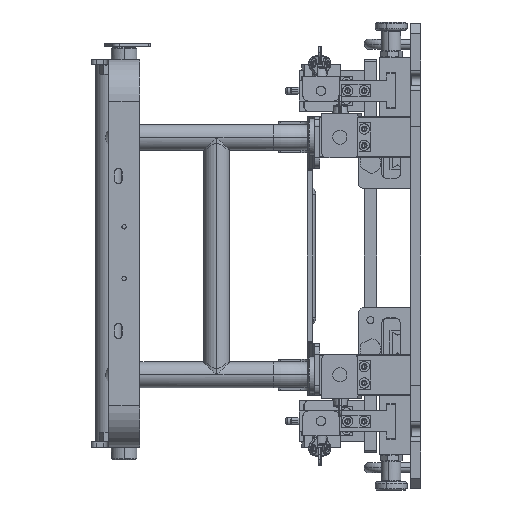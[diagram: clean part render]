
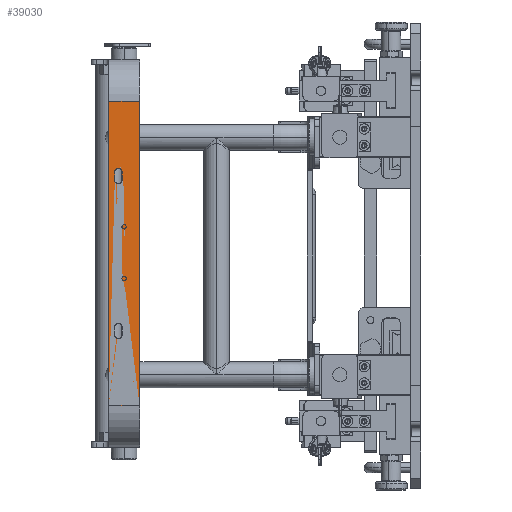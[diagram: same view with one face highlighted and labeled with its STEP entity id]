
A CAD part, left-side view. The second image highlights one B-rep face of the part: STEP entity #39030.
In plain terms, the highlighted planar face has unit normal (-1, 0, 0).
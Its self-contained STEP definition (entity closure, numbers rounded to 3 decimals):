
#37834=CARTESIAN_POINT('Vertex',(-617.475,474.625,208.053)) ;
#37837=CARTESIAN_POINT('Line Origine',(-617.434,622.125,208.053)) ;
#37841=CARTESIAN_POINT('Vertex',(-617.393,769.625,208.053)) ;
#37906=CARTESIAN_POINT('Vertex',(-617.393,769.625,238.053)) ;
#37909=CARTESIAN_POINT('Line Origine',(-617.434,622.125,238.053)) ;
#37913=CARTESIAN_POINT('Vertex',(-617.475,474.625,238.053)) ;
#38137=CARTESIAN_POINT('Line Origine',(-617.475,474.625,223.053)) ;
#38892=CARTESIAN_POINT('Axis2P3D Location',(-617.475,474.625,208.053)) ;
#38897=CARTESIAN_POINT('Line Origine',(-617.393,769.625,223.053)) ;
#38908=CARTESIAN_POINT('Axis2P3D Location',(-617.414,693.125,228.553)) ;
#38912=CARTESIAN_POINT('Vertex',(-617.414,693.125,232.053)) ;
#38914=CARTESIAN_POINT('Vertex',(-617.414,693.125,225.053)) ;
#38917=CARTESIAN_POINT('Line Origine',(-617.413,697.125,225.053)) ;
#38921=CARTESIAN_POINT('Vertex',(-617.412,701.125,225.053)) ;
#38925=CARTESIAN_POINT('Control Point',(-617.412,701.125,232.053)) ;
#38926=CARTESIAN_POINT('Control Point',(-617.412,701.492,232.053)) ;
#38927=CARTESIAN_POINT('Control Point',(-617.412,701.859,232.005)) ;
#38928=CARTESIAN_POINT('Control Point',(-617.412,702.217,231.909)) ;
#38929=CARTESIAN_POINT('Control Point',(-617.412,702.9,231.625)) ;
#38930=CARTESIAN_POINT('Control Point',(-617.411,703.487,231.176)) ;
#38931=CARTESIAN_POINT('Control Point',(-617.411,703.749,230.913)) ;
#38932=CARTESIAN_POINT('Control Point',(-617.411,704.198,230.326)) ;
#38933=CARTESIAN_POINT('Control Point',(-617.411,704.482,229.643)) ;
#38934=CARTESIAN_POINT('Control Point',(-617.411,704.578,229.285)) ;
#38935=CARTESIAN_POINT('Control Point',(-617.411,704.673,228.552)) ;
#38936=CARTESIAN_POINT('Control Point',(-617.411,704.577,227.819)) ;
#38937=CARTESIAN_POINT('Control Point',(-617.411,704.481,227.46)) ;
#38938=CARTESIAN_POINT('Control Point',(-617.411,704.197,226.778)) ;
#38939=CARTESIAN_POINT('Control Point',(-617.411,703.747,226.191)) ;
#38940=CARTESIAN_POINT('Control Point',(-617.411,703.485,225.929)) ;
#38941=CARTESIAN_POINT('Control Point',(-617.412,702.898,225.48)) ;
#38942=CARTESIAN_POINT('Control Point',(-617.412,702.215,225.197)) ;
#38943=CARTESIAN_POINT('Control Point',(-617.412,701.858,225.101)) ;
#38944=CARTESIAN_POINT('Control Point',(-617.412,701.491,225.053)) ;
#38945=CARTESIAN_POINT('Control Point',(-617.412,701.125,225.053)) ;
#38946=CARTESIAN_POINT('Vertex',(-617.412,701.125,232.053)) ;
#38949=CARTESIAN_POINT('Line Origine',(-617.413,697.125,232.053)) ;
#38961=CARTESIAN_POINT('Control Point',(-617.456,543.125,225.053)) ;
#38962=CARTESIAN_POINT('Control Point',(-617.456,542.759,225.053)) ;
#38963=CARTESIAN_POINT('Control Point',(-617.456,542.392,225.101)) ;
#38964=CARTESIAN_POINT('Control Point',(-617.457,542.034,225.197)) ;
#38965=CARTESIAN_POINT('Control Point',(-617.457,541.351,225.481)) ;
#38966=CARTESIAN_POINT('Control Point',(-617.457,540.764,225.93)) ;
#38967=CARTESIAN_POINT('Control Point',(-617.457,540.502,226.193)) ;
#38968=CARTESIAN_POINT('Control Point',(-617.457,540.052,226.78)) ;
#38969=CARTESIAN_POINT('Control Point',(-617.457,539.769,227.463)) ;
#38970=CARTESIAN_POINT('Control Point',(-617.457,539.673,227.821)) ;
#38971=CARTESIAN_POINT('Control Point',(-617.457,539.577,228.554)) ;
#38972=CARTESIAN_POINT('Control Point',(-617.457,539.674,229.287)) ;
#38973=CARTESIAN_POINT('Control Point',(-617.457,539.77,229.646)) ;
#38974=CARTESIAN_POINT('Control Point',(-617.457,540.054,230.328)) ;
#38975=CARTESIAN_POINT('Control Point',(-617.457,540.504,230.915)) ;
#38976=CARTESIAN_POINT('Control Point',(-617.457,540.766,231.177)) ;
#38977=CARTESIAN_POINT('Control Point',(-617.457,541.353,231.626)) ;
#38978=CARTESIAN_POINT('Control Point',(-617.457,542.035,231.909)) ;
#38979=CARTESIAN_POINT('Control Point',(-617.456,542.393,232.005)) ;
#38980=CARTESIAN_POINT('Control Point',(-617.456,542.759,232.053)) ;
#38981=CARTESIAN_POINT('Control Point',(-617.456,543.125,232.053)) ;
#38982=CARTESIAN_POINT('Vertex',(-617.456,543.125,232.053)) ;
#38984=CARTESIAN_POINT('Vertex',(-617.456,543.125,225.053)) ;
#38987=CARTESIAN_POINT('Line Origine',(-617.455,547.125,225.053)) ;
#38991=CARTESIAN_POINT('Vertex',(-617.454,551.125,225.053)) ;
#38995=CARTESIAN_POINT('Control Point',(-617.454,551.125,232.053)) ;
#38996=CARTESIAN_POINT('Control Point',(-617.454,551.492,232.053)) ;
#38997=CARTESIAN_POINT('Control Point',(-617.454,551.859,232.005)) ;
#38998=CARTESIAN_POINT('Control Point',(-617.454,552.217,231.909)) ;
#38999=CARTESIAN_POINT('Control Point',(-617.453,552.9,231.625)) ;
#39000=CARTESIAN_POINT('Control Point',(-617.453,553.487,231.176)) ;
#39001=CARTESIAN_POINT('Control Point',(-617.453,553.749,230.913)) ;
#39002=CARTESIAN_POINT('Control Point',(-617.453,554.198,230.326)) ;
#39003=CARTESIAN_POINT('Control Point',(-617.453,554.482,229.643)) ;
#39004=CARTESIAN_POINT('Control Point',(-617.453,554.578,229.285)) ;
#39005=CARTESIAN_POINT('Control Point',(-617.453,554.673,228.552)) ;
#39006=CARTESIAN_POINT('Control Point',(-617.453,554.577,227.819)) ;
#39007=CARTESIAN_POINT('Control Point',(-617.453,554.481,227.46)) ;
#39008=CARTESIAN_POINT('Control Point',(-617.453,554.197,226.778)) ;
#39009=CARTESIAN_POINT('Control Point',(-617.453,553.747,226.191)) ;
#39010=CARTESIAN_POINT('Control Point',(-617.453,553.485,225.929)) ;
#39011=CARTESIAN_POINT('Control Point',(-617.453,552.898,225.48)) ;
#39012=CARTESIAN_POINT('Control Point',(-617.454,552.215,225.197)) ;
#39013=CARTESIAN_POINT('Control Point',(-617.454,551.858,225.101)) ;
#39014=CARTESIAN_POINT('Control Point',(-617.454,551.491,225.053)) ;
#39015=CARTESIAN_POINT('Control Point',(-617.454,551.125,225.053)) ;
#39016=CARTESIAN_POINT('Vertex',(-617.454,551.125,232.053)) ;
#39019=CARTESIAN_POINT('Line Origine',(-617.455,547.125,232.053)) ;
#37838=DIRECTION('Vector Direction',(0.,1.,0.)) ;
#37910=DIRECTION('Vector Direction',(0.,1.,0.)) ;
#38138=DIRECTION('Vector Direction',(0.,0.,1.)) ;
#38893=DIRECTION('Axis2P3D Direction',(1.,0.,0.)) ;
#38894=DIRECTION('Axis2P3D XDirection',(0.,1.,0.)) ;
#38898=DIRECTION('Vector Direction',(0.,0.,1.)) ;
#38909=DIRECTION('Axis2P3D Direction',(1.,0.,0.)) ;
#38918=DIRECTION('Vector Direction',(0.,1.,0.)) ;
#38950=DIRECTION('Vector Direction',(0.,-1.,0.)) ;
#38988=DIRECTION('Vector Direction',(0.,1.,0.)) ;
#39020=DIRECTION('Vector Direction',(0.,-1.,0.)) ;
#38895=AXIS2_PLACEMENT_3D('Plane Axis2P3D',#38892,#38893,#38894) ;
#38910=AXIS2_PLACEMENT_3D('Circle Axis2P3D',#38908,#38909,$) ;
#38903=ORIENTED_EDGE('',*,*,#37843,.F.) ;
#38904=ORIENTED_EDGE('',*,*,#38141,.F.) ;
#38905=ORIENTED_EDGE('',*,*,#37915,.F.) ;
#38906=ORIENTED_EDGE('',*,*,#38901,.T.) ;
#38955=ORIENTED_EDGE('',*,*,#38916,.T.) ;
#38956=ORIENTED_EDGE('',*,*,#38923,.T.) ;
#38957=ORIENTED_EDGE('',*,*,#38948,.T.) ;
#38958=ORIENTED_EDGE('',*,*,#38953,.T.) ;
#39025=ORIENTED_EDGE('',*,*,#38986,.T.) ;
#39026=ORIENTED_EDGE('',*,*,#38993,.T.) ;
#39027=ORIENTED_EDGE('',*,*,#39018,.T.) ;
#39028=ORIENTED_EDGE('',*,*,#39023,.T.) ;
#38959=FACE_BOUND('',#38954,.T.) ;
#39029=FACE_BOUND('',#39024,.T.) ;
#37839=VECTOR('Line Direction',#37838,1.) ;
#37911=VECTOR('Line Direction',#37910,1.) ;
#38139=VECTOR('Line Direction',#38138,1.) ;
#38899=VECTOR('Line Direction',#38898,1.) ;
#38919=VECTOR('Line Direction',#38918,1.) ;
#38951=VECTOR('Line Direction',#38950,1.) ;
#38989=VECTOR('Line Direction',#38988,1.) ;
#39021=VECTOR('Line Direction',#39020,1.) ;
#39030=ADVANCED_FACE('di zuo zhi jia.1\\\X2\4E0A8FB96846\X0\\\\X2\51E04F554F53\X0\.4.1',(#38907,#38959,#39029),#38896,.F.) ;
#38924=B_SPLINE_CURVE_WITH_KNOTS('',5,(#38925,#38926,#38927,#38928,#38929,#38930,#38931,#38932,#38933,#38934,#38935,#38936,#38937,#38938,#38939,#38940,#38941,#38942,#38943,#38944,#38945),.UNSPECIFIED.,.F.,.U.,(6,3,3,3,3,3,6),(0.,2.6,5.199,7.799,10.398,12.998,15.594),.UNSPECIFIED.) ;
#38960=B_SPLINE_CURVE_WITH_KNOTS('',5,(#38961,#38962,#38963,#38964,#38965,#38966,#38967,#38968,#38969,#38970,#38971,#38972,#38973,#38974,#38975,#38976,#38977,#38978,#38979,#38980,#38981),.UNSPECIFIED.,.F.,.U.,(6,3,3,3,3,3,6),(0.,2.6,5.199,7.799,10.398,12.998,15.594),.UNSPECIFIED.) ;
#38994=B_SPLINE_CURVE_WITH_KNOTS('',5,(#38995,#38996,#38997,#38998,#38999,#39000,#39001,#39002,#39003,#39004,#39005,#39006,#39007,#39008,#39009,#39010,#39011,#39012,#39013,#39014,#39015),.UNSPECIFIED.,.F.,.U.,(6,3,3,3,3,3,6),(0.,2.6,5.199,7.799,10.398,12.998,15.594),.UNSPECIFIED.) ;
#38911=CIRCLE('generated circle',#38910,3.5) ;
#37843=EDGE_CURVE('',#37835,#37842,#37840,.T.) ;
#37915=EDGE_CURVE('',#37907,#37914,#37912,.F.) ;
#38141=EDGE_CURVE('',#37914,#37835,#38140,.F.) ;
#38901=EDGE_CURVE('',#37907,#37842,#38900,.F.) ;
#38916=EDGE_CURVE('',#38913,#38915,#38911,.T.) ;
#38923=EDGE_CURVE('',#38915,#38922,#38920,.T.) ;
#38948=EDGE_CURVE('',#38922,#38947,#38924,.F.) ;
#38953=EDGE_CURVE('',#38947,#38913,#38952,.T.) ;
#38986=EDGE_CURVE('',#38983,#38985,#38960,.F.) ;
#38993=EDGE_CURVE('',#38985,#38992,#38990,.T.) ;
#39018=EDGE_CURVE('',#38992,#39017,#38994,.F.) ;
#39023=EDGE_CURVE('',#39017,#38983,#39022,.T.) ;
#38902=EDGE_LOOP('',(#38903,#38904,#38905,#38906)) ;
#38954=EDGE_LOOP('',(#38955,#38956,#38957,#38958)) ;
#39024=EDGE_LOOP('',(#39025,#39026,#39027,#39028)) ;
#38907=FACE_OUTER_BOUND('',#38902,.T.) ;
#37840=LINE('Line',#37837,#37839) ;
#37912=LINE('Line',#37909,#37911) ;
#38140=LINE('Line',#38137,#38139) ;
#38900=LINE('Line',#38897,#38899) ;
#38920=LINE('Line',#38917,#38919) ;
#38952=LINE('Line',#38949,#38951) ;
#38990=LINE('Line',#38987,#38989) ;
#39022=LINE('Line',#39019,#39021) ;
#38896=PLANE('Plane',#38895) ;
#37835=VERTEX_POINT('',#37834) ;
#37842=VERTEX_POINT('',#37841) ;
#37907=VERTEX_POINT('',#37906) ;
#37914=VERTEX_POINT('',#37913) ;
#38913=VERTEX_POINT('',#38912) ;
#38915=VERTEX_POINT('',#38914) ;
#38922=VERTEX_POINT('',#38921) ;
#38947=VERTEX_POINT('',#38946) ;
#38983=VERTEX_POINT('',#38982) ;
#38985=VERTEX_POINT('',#38984) ;
#38992=VERTEX_POINT('',#38991) ;
#39017=VERTEX_POINT('',#39016) ;
